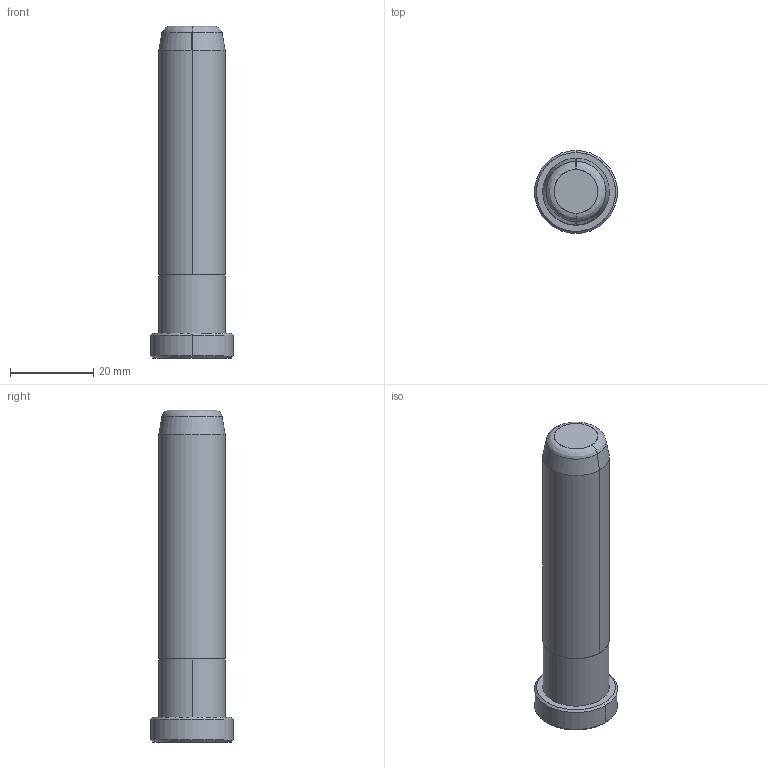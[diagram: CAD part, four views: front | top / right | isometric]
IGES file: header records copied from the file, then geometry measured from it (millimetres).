
Start section: START RECORD GO HERE.
Global section: file name: B80816080.igs; native system: DASSAULT SYSTEMES CATIA V5 R20 - www.3ds.com; preprocessor: CATIA Version 5 Release 20 ; author: Utente; organization: NB04-ASUS; date: 20200419.165415; units: millimetre
Bounding box: 20 x 20 x 80 mm (x, y, z)
Surface area: 4597.2 mm2 (no closed solid volume)
Topology: 0 solids, 0 shells, 20 faces, 80 edges, 80 vertices
Faces by surface type: revolution 16, plane 4
